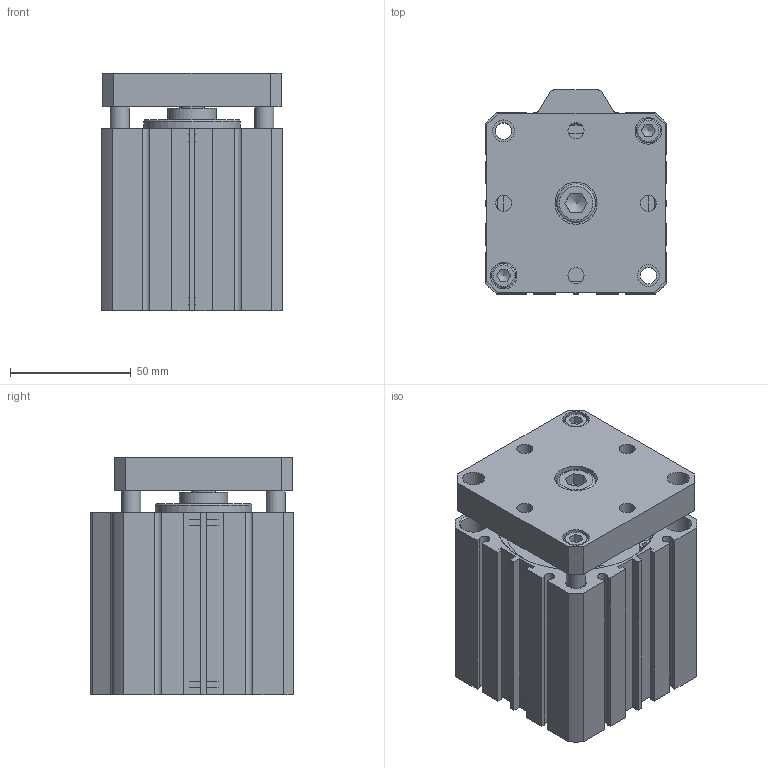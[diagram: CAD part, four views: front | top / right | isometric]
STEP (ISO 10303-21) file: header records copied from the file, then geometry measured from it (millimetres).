
FILE_DESCRIPTION((''),'2;1');
FILE_NAME('I:\3D電子目錄\氣缸\JTD\JTD\JTD63\JTD63x40.stp','2007-08-14T19:49:53',('Administrator'),(''),'Autodesk Inventor 11','Autodesk Inventor 11','');
FILE_SCHEMA(('AUTOMOTIVE_DESIGN { 1 0 10303 214 1 1 1 1 }'));
Length unit declared in the file: millimetre
Products named in the file (5): JTD63; R 形環 65; ISO 4762 M10 x 16; ISO 4762 M6 x 20
Assembly tree (6 placements, depth 2):
  JTD63
    JTD63
    R 形環 65  x2
    ISO 4762 M10 x 16
    ISO 4762 M6 x 20  x2
Bounding box: 75 x 84.5 x 98.5 mm (x, y, z)
Volume: 459497.2 mm3; surface area: 83350 mm2
Topology: 7 solids, 7 shells, 232 faces, 563 edges, 372 vertices
Faces by surface type: plane 136, cylinder 61, bspline 16, cone 14, torus 5
Full cylindrical faces by diameter (mm): 2.7 x4, 3 x2, 6 x2, 6.8 x2, 8 x2, 8.5 x2, 9 x2, 10 x3, 11 x4, 16 x1, 20 x1, 40 x1, 47 x1, 65 x4, 68 x2
Entity records: 6069 total; most frequent: CARTESIAN_POINT 1279, DIRECTION 964, ORIENTED_EDGE 866, EDGE_CURVE 433, AXIS2_PLACEMENT_3D 342, VERTEX_POINT 321, EDGE_LOOP 316, VECTOR 280
